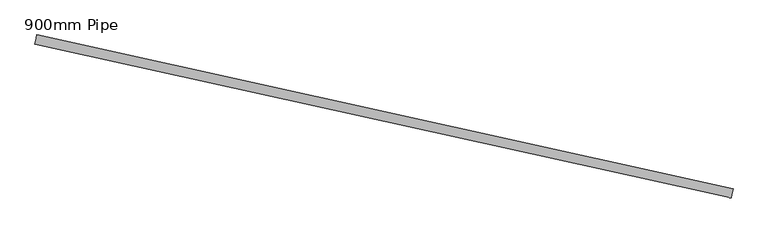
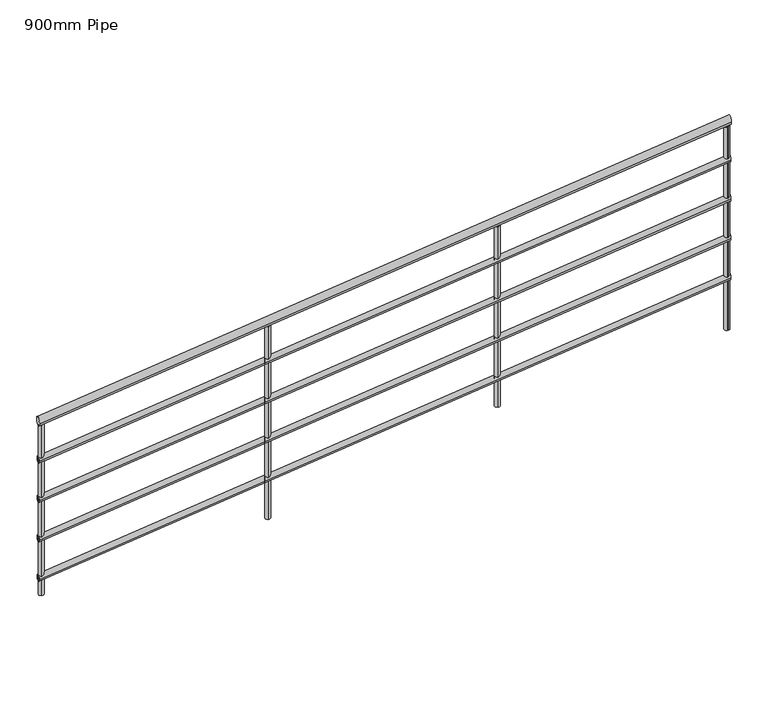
"""IFC4 building model written with IfcOpenShell, lengths in millimetres: railing geometry, 900mm Pipe."""

import ifcopenshell
import ifcopenshell.guid

model = None  # the IFC model being written
_history = None  # IfcOwnerHistory: only IFC2X3 demands one
_inside = {}  # id of a spatial element -> (the spatial element, [elements in it])
_under = {}  # id of a project, library or spatial element -> (it, [spatial elements below it])
_declared = {}  # id of a project -> (the project, [libraries it declares])
_typed = {}  # id of a type object -> (the type object, [elements of that type])
_made_of = {}  # id of a material, layer set ... -> (it, [elements and type objects made of it])


def new_model(schema):
    """Start an empty IFC model of exactly this schema.

    Asked for "IFC4X3", IfcOpenShell would pick the latest addendum, in which some entities
    have other attributes; the version numbers below select the first issue.
    IFC2X3 requires an IfcOwnerHistory on every rooted entity: one is made here for all.
    """
    global model, _history
    if schema == "IFC4X3":
        model = ifcopenshell.file(schema_version=(4, 3, 0, 0))
    else:
        model = ifcopenshell.file(schema=schema)
    _inside.clear()
    _under.clear()
    _declared.clear()
    _typed.clear()
    _made_of.clear()
    _history = None
    if model.schema == "IFC2X3":
        org = make("IfcOrganization", Name="unknown")
        user = make(
            "IfcPersonAndOrganization",
            ThePerson=make("IfcPerson", FamilyName="unknown"),
            TheOrganization=org,
        )
        app = make(
            "IfcApplication",
            ApplicationDeveloper=org,
            Version="unknown",
            ApplicationFullName="unknown",
            ApplicationIdentifier="unknown",
        )
        _history = make(
            "IfcOwnerHistory",
            OwningUser=user,
            OwningApplication=app,
            ChangeAction="ADDED",
            CreationDate=0,
        )
    return model


def make(cls, **values):
    """One entity of the class cls with the attributes given. An attribute that is None is left unset."""
    return model.create_entity(
        cls, **{name: value for name, value in values.items() if value is not None}
    )


def rooted(cls, **values):
    """An entity with a GlobalId (a new one), such as an element, a storey or a relation."""
    return make(cls, GlobalId=ifcopenshell.guid.new(), OwnerHistory=_history, **values)


def si_unit(unit_type, name, prefix=None):
    """IfcSIUnit, for example si_unit("LENGTHUNIT", "METRE", prefix="MILLI")."""
    return make("IfcSIUnit", UnitType=unit_type, Prefix=prefix, Name=name)


def assignment(units):
    """IfcUnitAssignment: the units of a project."""
    return None if units is None else make("IfcUnitAssignment", Units=units)


def point(xyz):
    """IfcCartesianPoint."""
    return None if xyz is None else make("IfcCartesianPoint", Coordinates=xyz)


def direction(xyz):
    """IfcDirection."""
    return None if xyz is None else make("IfcDirection", DirectionRatios=xyz)


def frame(location, z_axis=None, x_axis=None):
    """IfcAxis2Placement3D, a coordinate frame: its origin and axes. An axis left out is left unset."""
    return make(
        "IfcAxis2Placement3D",
        Location=point(location),
        Axis=direction(z_axis),
        RefDirection=direction(x_axis),
    )


def origin():
    """The frame at (0, 0, 0) with its axes left unset."""
    return frame((0.0, 0.0, 0.0))


def place(relative_to, where):
    """IfcLocalPlacement: puts the frame where relative to a parent placement (None: the world)."""
    return make(
        "IfcLocalPlacement", PlacementRelTo=relative_to, RelativePlacement=where
    )


def context(
    kind, dimensions, precision=None, world=None, true_north=None, identifier=None
):
    """IfcGeometricRepresentationContext, for example the 3D "Model" context."""
    return make(
        "IfcGeometricRepresentationContext",
        ContextIdentifier=identifier,
        ContextType=kind,
        CoordinateSpaceDimension=dimensions,
        Precision=precision,
        WorldCoordinateSystem=world,
        TrueNorth=true_north,
    )


def project(units=None, contexts=None):
    """IfcProject with its units and contexts."""
    return rooted(
        "IfcProject",
        Name="project",
        RepresentationContexts=contexts,
        UnitsInContext=assignment(units),
    )


def spatial(cls, under=None, at=None, **own):
    """A site, building, storey or space (cls), placed at a placement, below another one or the project."""
    s = rooted(cls, ObjectPlacement=at, **own)
    if under is not None:
        _under.setdefault(under.id(), (under, []))[1].append(s)
    return s


def circle_curve(where, radius):
    """IfcCircle in the frame where."""
    return make("IfcCircle", Position=where, Radius=radius)


def ellipse_curve(where, semi_axis1, semi_axis2):
    """IfcEllipse in the frame where."""
    return make(
        "IfcEllipse", Position=where, SemiAxis1=semi_axis1, SemiAxis2=semi_axis2
    )


def shape(context_of_items, identifier, shape_type, items):
    """IfcShapeRepresentation: the items that make up one representation, for example the "Body"."""
    return make(
        "IfcShapeRepresentation",
        ContextOfItems=context_of_items,
        RepresentationIdentifier=identifier,
        RepresentationType=shape_type,
        Items=items,
    )


def source(mapping_origin, context_of_items, identifier, shape_type, items):
    """IfcRepresentationMap: a shape defined once, which mapped items show again and again."""
    return make(
        "IfcRepresentationMap",
        MappingOrigin=mapping_origin,
        MappedRepresentation=shape(context_of_items, identifier, shape_type, items),
    )


def transform(
    local_origin,
    x_axis=None,
    y_axis=None,
    z_axis=None,
    scale=None,
    scale2=None,
    scale3=None,
    uniform=True,
):
    """IfcCartesianTransformationOperator3D, or its non-uniform kind. x_axis, y_axis, z_axis: its Axis1, 2, 3."""
    if uniform:
        return make(
            "IfcCartesianTransformationOperator3D",
            Axis1=direction(x_axis),
            Axis2=direction(y_axis),
            LocalOrigin=point(local_origin),
            Scale=scale,
            Axis3=direction(z_axis),
        )
    return make(
        "IfcCartesianTransformationOperator3DnonUniform",
        Axis1=direction(x_axis),
        Axis2=direction(y_axis),
        LocalOrigin=point(local_origin),
        Scale=scale,
        Axis3=direction(z_axis),
        Scale2=scale2,
        Scale3=scale3,
    )


def mapped(mapping_source, mapping_target):
    """IfcMappedItem: shows the shape of a source again, moved by a transform."""
    return make(
        "IfcMappedItem", MappingSource=mapping_source, MappingTarget=mapping_target
    )


def made_of(thing, what):
    """Note that an element or type object is made of a material, layer set ...; save() writes the relation."""
    if what is not None:
        _made_of.setdefault(what.id(), (what, []))[1].append(thing)
    return thing


def element(
    cls,
    number,
    at=None,
    inside=None,
    cuts=None,
    type_object=None,
    material=None,
    context=None,
    identifier="Body",
    shape_type=None,
    held_by="IfcProductDefinitionShape",
    body=None,
    shapes=None,
    **own,
):
    """One element of the class cls, such as IfcWall. Its Tag is "e" and its number.

    at: its placement. inside: the storey or other place that contains it. cuts: it is an
    opening in that element (IfcRelVoidsElement). A single representation is given by context,
    identifier, shape_type and body (its items); several are given by shapes. held_by: the class
    of the entity that holds the representations. save() writes the other relations.
    """
    e = rooted(cls, Tag="e%d" % number, ObjectPlacement=at, **own)
    if body is not None:
        shapes = [shape(context, identifier, shape_type, body)]
    if shapes is not None:
        e.Representation = make(held_by, Representations=shapes)
    if inside is not None:
        _inside.setdefault(inside.id(), (inside, []))[1].append(e)
    if cuts is not None:
        rooted(
            "IfcRelVoidsElement", RelatingBuildingElement=cuts, RelatedOpeningElement=e
        )
    if type_object is not None:
        _typed.setdefault(type_object.id(), (type_object, []))[1].append(e)
    return made_of(e, material)


def aggregate(whole, parts):
    """IfcRelAggregates: a whole, such as a stair, and the parts it consists of."""
    return rooted("IfcRelAggregates", RelatingObject=whole, RelatedObjects=parts)


def save(model, path):
    """Write the relations noted so far, then the file.

    IfcRelAggregates (storeys below a building ...), IfcRelContainedInSpatialStructure (elements
    in a storey), IfcRelDefinesByType, IfcRelAssociatesMaterial and IfcRelDeclares: one each for
    every whole, place, type object, material and project.
    """
    for whole, parts in _under.values():
        aggregate(whole, parts)
    for where, things in _inside.values():
        rooted(
            "IfcRelContainedInSpatialStructure",
            RelatedElements=things,
            RelatingStructure=where,
        )
    for kind, things in _typed.values():
        rooted("IfcRelDefinesByType", RelatedObjects=things, RelatingType=kind)
    for what, things in _made_of.values():
        rooted("IfcRelAssociatesMaterial", RelatedObjects=things, RelatingMaterial=what)
    for by, libraries in _declared.values():
        rooted("IfcRelDeclares", RelatingContext=by, RelatedDefinitions=libraries)
    model.write(path)


def plane_surface(at):
    """IfcPlane: the flat surface through the origin of the frame at, square to its z axis."""
    return make("IfcPlane", Position=at)


def cylinder_surface(at, radius):
    """IfcCylindricalSurface: all points at the distance radius from the z axis of the frame at."""
    return make("IfcCylindricalSurface", Position=at, Radius=radius)


def advanced_brep(points, edges, surfaces, faces):
    """IfcAdvancedBrep: a solid bounded by faces that lie on surfaces and meet in shared edges.

    An edge is (start, end): straight between two places in points (the first is 0);
    or (start, end, curve); or (start, end, curve, False) where it runs against its curve.
    A face is (place in surfaces, loops), or (place, loops, False) where it looks against
    its surface's normal. A loop lists edges by number (the first is 1), with a minus sign
    where the edge is run from its end to its start. The first loop is the outer one.
    """
    corners = [point(p) for p in points]
    vertices = [make("IfcVertexPoint", VertexGeometry=c) for c in corners]
    made = []
    for start, end, *more in edges:
        made.append(
            make(
                "IfcEdgeCurve",
                EdgeStart=vertices[start],
                EdgeEnd=vertices[end],
                EdgeGeometry=more[0] if more else make("IfcPolyline", Points=[corners[start], corners[end]]),
                SameSense=more[1] if len(more) > 1 else True,
            )
        )
    hull = []
    for where, loops, *sense in faces:
        bounds = []
        for j, loop in enumerate(loops):
            ring = [make("IfcOrientedEdge", EdgeElement=made[abs(k) - 1], Orientation=k > 0) for k in loop]
            bounds.append(
                make(
                    "IfcFaceOuterBound" if j == 0 else "IfcFaceBound",
                    Bound=make("IfcEdgeLoop", EdgeList=ring),
                    Orientation=True,
                )
            )
        hull.append(make("IfcAdvancedFace", Bounds=bounds, FaceSurface=surfaces[where], SameSense=sense[0] if sense else True))
    return make("IfcAdvancedBrep", Outer=make("IfcClosedShell", CfsFaces=hull))


def railing_900mm_pipe_fac46623(model_context):
    return source(origin(), model_context, "Body", "AdvancedBrep", [
        advanced_brep(
        [(864753.5441231, 76728.7706177, 3058.4278975), (864744.8863106, 76689.7188279, 3058.4278975), (867695.597983, 76076.5149668, 3954.8984857), (867686.9401706, 76037.4631771, 3954.8984857)],
        [
            (0, 1, ellipse_curve(frame((864749.2152169, 76709.2447228, 3058.4278975), z_axis=(-0.9762947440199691, 0.21644531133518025, 0.0), x_axis=(0.0, 0.0, -1.0)), 20.8662201, 20.0)),
            (1, 0, ellipse_curve(frame((864749.2152169, 76709.2447228, 3058.4278975), z_axis=(-0.9762947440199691, 0.21644531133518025, 0.0), x_axis=(0.0, 0.0, -1.0)), 20.8662201, 20.0)),
            (2, 3, ellipse_curve(frame((867691.2690768, 76056.989072, 3954.8984857), z_axis=(0.9762947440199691, -0.21644531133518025, 0.0), x_axis=(0.0, 0.0, -1.0)), 20.8662201, 20.0)),
            (3, 2, ellipse_curve(frame((867691.2690768, 76056.989072, 3954.8984857), z_axis=(0.9762947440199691, -0.21644531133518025, 0.0), x_axis=(0.0, 0.0, -1.0)), 20.8662201, 20.0)),
            (0, 2),
            (3, 1),
        ],
        [
            plane_surface(frame((864749.2152169, 76709.2447228, 3079.2941176), z_axis=(-0.9762947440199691, 0.21644531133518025, 0.0), x_axis=(0.21644531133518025, 0.9762947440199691, 0.0))),
            plane_surface(frame((867691.2690768, 76056.989072, 3975.7647059), z_axis=(0.9762947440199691, -0.21644531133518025, 0.0), x_axis=(0.21644531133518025, 0.9762947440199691, 0.0))),
            cylinder_surface(frame((864754.7827593, 76708.0103943, 3060.1243784), z_axis=(-0.9357657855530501, 0.20746000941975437, -0.2851363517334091), x_axis=(-0.21644531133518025, -0.9762947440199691, 0.0)), 20.0),
        ],
        [
            (0, [[1, 2]]),
            (1, [[3, 4]]),
            (2, [[-1, 5, -4, 6]]),
            (2, [[-2, -6, -3, -5]]),
        ],
    ),
        advanced_brep(
        [(864752.4618965, 76723.889144, 2863.6444525), (864745.9685372, 76694.6003016, 2863.6444525), (867694.5157565, 76071.6334931, 3760.1150408), (867688.0223971, 76042.3446508, 3760.1150408)],
        [
            (0, 1, ellipse_curve(frame((864749.2152169, 76709.2447228, 2863.6444525), z_axis=(-0.9762947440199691, 0.21644531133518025, 0.0), x_axis=(0.0, 0.0, -1.0)), 15.6496651, 15.0)),
            (1, 0, ellipse_curve(frame((864749.2152169, 76709.2447228, 2863.6444525), z_axis=(-0.9762947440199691, 0.21644531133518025, 0.0), x_axis=(0.0, 0.0, -1.0)), 15.6496651, 15.0)),
            (2, 3, ellipse_curve(frame((867691.2690768, 76056.989072, 3760.1150408), z_axis=(0.9762947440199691, -0.21644531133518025, 0.0), x_axis=(0.0, 0.0, -1.0)), 15.6496651, 15.0)),
            (3, 2, ellipse_curve(frame((867691.2690768, 76056.989072, 3760.1150408), z_axis=(0.9762947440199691, -0.21644531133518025, 0.0), x_axis=(0.0, 0.0, -1.0)), 15.6496651, 15.0)),
            (0, 2),
            (3, 1),
        ],
        [
            plane_surface(frame((864749.2152169, 76709.2447228, 2879.2941176), z_axis=(-0.9762947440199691, 0.21644531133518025, 0.0), x_axis=(0.21644531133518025, 0.9762947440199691, 0.0))),
            plane_surface(frame((867691.2690768, 76056.989072, 3775.7647059), z_axis=(0.9762947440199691, -0.21644531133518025, 0.0), x_axis=(0.21644531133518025, 0.9762947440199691, 0.0))),
            cylinder_surface(frame((864753.3908737, 76708.3189764, 2864.9168132), z_axis=(-0.9357657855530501, 0.20746000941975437, -0.2851363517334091), x_axis=(-0.21644531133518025, -0.9762947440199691, 0.0)), 15.0),
        ],
        [
            (0, [[1, 2]]),
            (1, [[3, 4]]),
            (2, [[-1, 5, -4, 6]]),
            (2, [[-2, -6, -3, -5]]),
        ],
    ),
        advanced_brep(
        [(864752.4618965, 76723.889144, 2663.6444525), (864745.9685372, 76694.6003016, 2663.6444525), (867694.5157565, 76071.6334931, 3560.1150408), (867688.0223971, 76042.3446508, 3560.1150408)],
        [
            (0, 1, ellipse_curve(frame((864749.2152169, 76709.2447228, 2663.6444525), z_axis=(-0.9762947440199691, 0.21644531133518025, 0.0), x_axis=(0.0, 0.0, -1.0)), 15.6496651, 15.0)),
            (1, 0, ellipse_curve(frame((864749.2152169, 76709.2447228, 2663.6444525), z_axis=(-0.9762947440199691, 0.21644531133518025, 0.0), x_axis=(0.0, 0.0, -1.0)), 15.6496651, 15.0)),
            (2, 3, ellipse_curve(frame((867691.2690768, 76056.989072, 3560.1150408), z_axis=(0.9762947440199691, -0.21644531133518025, 0.0), x_axis=(0.0, 0.0, -1.0)), 15.6496651, 15.0)),
            (3, 2, ellipse_curve(frame((867691.2690768, 76056.989072, 3560.1150408), z_axis=(0.9762947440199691, -0.21644531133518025, 0.0), x_axis=(0.0, 0.0, -1.0)), 15.6496651, 15.0)),
            (0, 2),
            (3, 1),
        ],
        [
            plane_surface(frame((864749.2152169, 76709.2447228, 2679.2941176), z_axis=(-0.9762947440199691, 0.21644531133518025, 0.0), x_axis=(0.21644531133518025, 0.9762947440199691, 0.0))),
            plane_surface(frame((867691.2690768, 76056.989072, 3575.7647059), z_axis=(0.9762947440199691, -0.21644531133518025, 0.0), x_axis=(0.21644531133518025, 0.9762947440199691, 0.0))),
            cylinder_surface(frame((864753.3908737, 76708.3189764, 2664.9168132), z_axis=(-0.9357657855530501, 0.20746000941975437, -0.2851363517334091), x_axis=(-0.21644531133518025, -0.9762947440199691, 0.0)), 15.0),
        ],
        [
            (0, [[1, 2]]),
            (1, [[3, 4]]),
            (2, [[-1, 5, -4, 6]]),
            (2, [[-2, -6, -3, -5]]),
        ],
    ),
        advanced_brep(
        [(864752.4618965, 76723.889144, 2463.6444525), (864745.9685372, 76694.6003016, 2463.6444525), (867694.5157565, 76071.6334931, 3360.1150408), (867688.0223971, 76042.3446508, 3360.1150408)],
        [
            (0, 1, ellipse_curve(frame((864749.2152169, 76709.2447228, 2463.6444525), z_axis=(-0.9762947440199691, 0.21644531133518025, 0.0), x_axis=(0.0, 0.0, -1.0)), 15.6496651, 15.0)),
            (1, 0, ellipse_curve(frame((864749.2152169, 76709.2447228, 2463.6444525), z_axis=(-0.9762947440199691, 0.21644531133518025, 0.0), x_axis=(0.0, 0.0, -1.0)), 15.6496651, 15.0)),
            (2, 3, ellipse_curve(frame((867691.2690768, 76056.989072, 3360.1150408), z_axis=(0.9762947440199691, -0.21644531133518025, 0.0), x_axis=(0.0, 0.0, -1.0)), 15.6496651, 15.0)),
            (3, 2, ellipse_curve(frame((867691.2690768, 76056.989072, 3360.1150408), z_axis=(0.9762947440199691, -0.21644531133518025, 0.0), x_axis=(0.0, 0.0, -1.0)), 15.6496651, 15.0)),
            (0, 2),
            (3, 1),
        ],
        [
            plane_surface(frame((864749.2152169, 76709.2447228, 2479.2941176), z_axis=(-0.9762947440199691, 0.21644531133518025, 0.0), x_axis=(0.21644531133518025, 0.9762947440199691, 0.0))),
            plane_surface(frame((867691.2690768, 76056.989072, 3375.7647059), z_axis=(0.9762947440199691, -0.21644531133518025, 0.0), x_axis=(0.21644531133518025, 0.9762947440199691, 0.0))),
            cylinder_surface(frame((864753.3908737, 76708.3189764, 2464.9168132), z_axis=(-0.9357657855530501, 0.20746000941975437, -0.2851363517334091), x_axis=(-0.21644531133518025, -0.9762947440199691, 0.0)), 15.0),
        ],
        [
            (0, [[1, 2]]),
            (1, [[3, 4]]),
            (2, [[-1, 5, -4, 6]]),
            (2, [[-2, -6, -3, -5]]),
        ],
    ),
        advanced_brep(
        [(864752.4618965, 76723.889144, 2263.6444525), (864745.9685372, 76694.6003016, 2263.6444525), (867694.5157565, 76071.6334931, 3160.1150408), (867688.0223971, 76042.3446508, 3160.1150408)],
        [
            (0, 1, ellipse_curve(frame((864749.2152169, 76709.2447228, 2263.6444525), z_axis=(-0.9762947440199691, 0.21644531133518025, 0.0), x_axis=(0.0, 0.0, -1.0)), 15.6496651, 15.0)),
            (1, 0, ellipse_curve(frame((864749.2152169, 76709.2447228, 2263.6444525), z_axis=(-0.9762947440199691, 0.21644531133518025, 0.0), x_axis=(0.0, 0.0, -1.0)), 15.6496651, 15.0)),
            (2, 3, ellipse_curve(frame((867691.2690768, 76056.989072, 3160.1150408), z_axis=(0.9762947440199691, -0.21644531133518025, 0.0), x_axis=(0.0, 0.0, -1.0)), 15.6496651, 15.0)),
            (3, 2, ellipse_curve(frame((867691.2690768, 76056.989072, 3160.1150408), z_axis=(0.9762947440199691, -0.21644531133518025, 0.0), x_axis=(0.0, 0.0, -1.0)), 15.6496651, 15.0)),
            (0, 2),
            (3, 1),
        ],
        [
            plane_surface(frame((864749.2152169, 76709.2447228, 2279.2941176), z_axis=(-0.9762947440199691, 0.21644531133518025, 0.0), x_axis=(0.21644531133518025, 0.9762947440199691, 0.0))),
            plane_surface(frame((867691.2690768, 76056.989072, 3175.7647059), z_axis=(0.9762947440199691, -0.21644531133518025, 0.0), x_axis=(0.21644531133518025, 0.9762947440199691, 0.0))),
            cylinder_surface(frame((864753.3908737, 76708.3189764, 2264.9168132), z_axis=(-0.9357657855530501, 0.20746000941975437, -0.28513635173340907), x_axis=(-0.21644531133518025, -0.9762947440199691, 0.0)), 15.0),
        ],
        [
            (0, [[1, 2]]),
            (1, [[3, 4]]),
            (2, [[-1, 5, -4, 6]]),
            (2, [[-2, -6, -3, -5]]),
        ],
    ),
        advanced_brep(
        [(867675.3938825, 76047.7051045, 3930.0193601), (867675.3938825, 76047.7051045, 2896.4705882), (867680.8050153, 76072.1124731, 2896.4705882), (867680.8050153, 76072.1124731, 3930.0193601)],
        [
            (0, 1),
            (1, 2, circle_curve(frame((867678.0994489, 76059.9087888, 2896.4705882), z_axis=(0.0, 0.0, 1.0), x_axis=(0.21644531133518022, 0.9762947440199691, 0.0)), 12.5)),
            (2, 3),
            (3, 0, ellipse_curve(frame((867678.0994489, 76059.9087888, 3930.0193601), z_axis=(0.27837712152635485, -0.06171642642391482, -0.958486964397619), x_axis=(0.9357657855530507, -0.20746000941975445, 0.285136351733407)), 13.0413876, 12.5)),
            (0, 3, ellipse_curve(frame((867678.0994489, 76059.9087888, 3930.0193601), z_axis=(0.27837712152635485, -0.06171642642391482, -0.958486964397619), x_axis=(0.9357657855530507, -0.20746000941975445, 0.285136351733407)), 13.0413876, 12.5)),
            (2, 1, circle_curve(frame((867678.0994489, 76059.9087888, 2896.4705882), z_axis=(0.0, 0.0, 1.0), x_axis=(0.21644531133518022, 0.9762947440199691, 0.0)), 12.5)),
        ],
        [
            cylinder_surface(frame((867678.0994489, 76059.9087888, 2796.4705882), z_axis=(0.0, 0.0, 1.0), x_axis=(0.21644531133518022, 0.9762947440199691, 0.0)), 12.5),
            plane_surface(frame((867707.9179503, 76078.9050246, 3937.4565075), z_axis=(-0.27837712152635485, 0.06171642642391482, 0.958486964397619), x_axis=(-0.21644531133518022, -0.9762947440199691, 0.0))),
            plane_surface(frame((867659.1032131, 76089.7272902, 2896.4705882), z_axis=(0.0, 0.0, -1.0), x_axis=(-0.21644531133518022, -0.9762947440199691, 0.0))),
        ],
        [
            (0, [[1, 2, 3, 4]]),
            (0, [[-1, 5, -3, 6]]),
            (1, [[-4, -5]]),
            (2, [[-2, -6]]),
        ],
    ),
        advanced_brep(
        [(866699.0991385, 76264.1504158, 3632.5334659), (866699.0991385, 76264.1504158, 2717.1764706), (866704.5102713, 76288.5577844, 2717.1764706), (866704.5102713, 76288.5577844, 3632.5334659)],
        [
            (0, 1),
            (1, 2, circle_curve(frame((866701.8047049, 76276.3541001, 2717.1764706), z_axis=(0.0, 0.0, 1.0), x_axis=(0.21644531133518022, 0.9762947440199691, 0.0)), 12.5)),
            (2, 3),
            (3, 0, ellipse_curve(frame((866701.8047049, 76276.3541001, 3632.5334659), z_axis=(0.27837712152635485, -0.06171642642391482, -0.958486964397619), x_axis=(0.9357657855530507, -0.20746000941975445, 0.285136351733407)), 13.0413876, 12.5)),
            (0, 3, ellipse_curve(frame((866701.8047049, 76276.3541001, 3632.5334659), z_axis=(0.27837712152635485, -0.06171642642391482, -0.958486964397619), x_axis=(0.9357657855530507, -0.20746000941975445, 0.285136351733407)), 13.0413876, 12.5)),
            (2, 1, circle_curve(frame((866701.8047049, 76276.3541001, 2717.1764706), z_axis=(0.0, 0.0, 1.0), x_axis=(0.21644531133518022, 0.9762947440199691, 0.0)), 12.5)),
        ],
        [
            cylinder_surface(frame((866701.8047049, 76276.3541001, 2617.1764706), z_axis=(0.0, 0.0, 1.0), x_axis=(0.21644531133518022, 0.9762947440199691, 0.0)), 12.5),
            plane_surface(frame((866731.6232063, 76295.350336, 3639.9706132), z_axis=(-0.27837712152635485, 0.06171642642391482, 0.958486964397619), x_axis=(-0.21644531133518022, -0.9762947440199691, 0.0))),
            plane_surface(frame((866682.8084691, 76306.1726015, 2717.1764706), z_axis=(0.0, 0.0, -1.0), x_axis=(-0.21644531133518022, -0.9762947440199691, 0.0))),
        ],
        [
            (0, [[1, 2, 3, 4]]),
            (0, [[-1, 5, -3, 6]]),
            (1, [[-4, -5]]),
            (2, [[-2, -6]]),
        ],
    ),
        advanced_brep(
        [(865722.8043945, 76480.5957272, 3335.0475716), (865722.8043945, 76480.5957272, 2358.5882353), (865728.2155273, 76505.0030958, 2358.5882353), (865728.2155273, 76505.0030958, 3335.0475716)],
        [
            (0, 1),
            (1, 2, circle_curve(frame((865725.5099609, 76492.7994115, 2358.5882353), z_axis=(0.0, 0.0, 1.0), x_axis=(0.21644531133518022, 0.9762947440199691, 0.0)), 12.5)),
            (2, 3),
            (3, 0, ellipse_curve(frame((865725.5099609, 76492.7994115, 3335.0475716), z_axis=(0.27837712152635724, -0.061716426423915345, -0.9584869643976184), x_axis=(0.93576578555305, -0.20746000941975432, 0.28513635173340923)), 13.0413876, 12.5)),
            (0, 3, ellipse_curve(frame((865725.5099609, 76492.7994115, 3335.0475716), z_axis=(0.27837712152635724, -0.061716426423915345, -0.9584869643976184), x_axis=(0.93576578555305, -0.20746000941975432, 0.28513635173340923)), 13.0413876, 12.5)),
            (2, 1, circle_curve(frame((865725.5099609, 76492.7994115, 2358.5882353), z_axis=(0.0, 0.0, 1.0), x_axis=(0.21644531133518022, 0.9762947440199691, 0.0)), 12.5)),
        ],
        [
            cylinder_surface(frame((865725.5099609, 76492.7994115, 2258.5882353), z_axis=(0.0, 0.0, 1.0), x_axis=(0.21644531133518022, 0.9762947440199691, 0.0)), 12.5),
            plane_surface(frame((865755.3284623, 76511.7956473, 3342.484719), z_axis=(-0.27837712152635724, 0.061716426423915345, 0.9584869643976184), x_axis=(-0.21644531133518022, -0.9762947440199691, 0.0))),
            plane_surface(frame((865706.5137251, 76522.6179129, 2358.5882353), z_axis=(0.0, 0.0, -1.0), x_axis=(-0.21644531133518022, -0.9762947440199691, 0.0))),
        ],
        [
            (0, [[1, 2, 3, 4]]),
            (0, [[-1, 5, -3, 6]]),
            (1, [[-4, -5]]),
            (2, [[-2, -6]]),
        ],
    ),
        advanced_brep(
        [(867676.3598261, 76047.4909541, 3930.3136919), (867676.3598261, 76047.4909541, 2896.4705882), (867681.7709589, 76071.8983227, 2896.4705882), (867681.7709589, 76071.8983227, 3930.3136919)],
        [
            (0, 1),
            (1, 2, circle_curve(frame((867679.0653925, 76059.6946384, 2896.4705882), z_axis=(0.0, 0.0, 1.0), x_axis=(0.21644531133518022, 0.9762947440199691, 0.0)), 12.5)),
            (2, 3),
            (3, 0, ellipse_curve(frame((867679.0653925, 76059.6946384, 3930.3136919), z_axis=(0.27837712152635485, -0.06171642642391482, -0.958486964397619), x_axis=(0.9357657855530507, -0.20746000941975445, 0.285136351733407)), 13.0413876, 12.5)),
            (0, 3, ellipse_curve(frame((867679.0653925, 76059.6946384, 3930.3136919), z_axis=(0.27837712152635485, -0.06171642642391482, -0.958486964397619), x_axis=(0.9357657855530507, -0.20746000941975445, 0.285136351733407)), 13.0413876, 12.5)),
            (2, 1, circle_curve(frame((867679.0653925, 76059.6946384, 2896.4705882), z_axis=(0.0, 0.0, 1.0), x_axis=(0.21644531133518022, 0.9762947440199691, 0.0)), 12.5)),
        ],
        [
            cylinder_surface(frame((867679.0653925, 76059.6946384, 2796.4705882), z_axis=(0.0, 0.0, 1.0), x_axis=(0.21644531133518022, 0.9762947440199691, 0.0)), 12.5),
            plane_surface(frame((867708.8838939, 76078.6908742, 3937.7508393), z_axis=(-0.27837712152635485, 0.06171642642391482, 0.958486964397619), x_axis=(-0.21644531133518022, -0.9762947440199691, 0.0))),
            plane_surface(frame((867660.0691567, 76089.5131397, 2896.4705882), z_axis=(0.0, 0.0, -1.0), x_axis=(-0.21644531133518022, -0.9762947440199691, 0.0))),
        ],
        [
            (0, [[1, 2, 3, 4]]),
            (0, [[-1, 5, -3, 6]]),
            (1, [[-4, -5]]),
            (2, [[-2, -6]]),
        ],
    ),
        advanced_brep(
        [(864758.7133348, 76694.3354721, 3041.280251), (864758.7133348, 76694.3354721, 2179.2941176), (864764.1244675, 76718.7428407, 2179.2941176), (864764.1244675, 76718.7428407, 3041.280251)],
        [
            (0, 1),
            (1, 2, circle_curve(frame((864761.4189012, 76706.5391564, 2179.2941176), z_axis=(0.0, 0.0, 1.0), x_axis=(0.21644531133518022, 0.9762947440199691, 0.0)), 12.5)),
            (2, 3),
            (3, 0, ellipse_curve(frame((864761.4189012, 76706.5391564, 3041.280251), z_axis=(0.27837712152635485, -0.06171642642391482, -0.958486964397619), x_axis=(0.9357657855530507, -0.20746000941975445, 0.285136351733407)), 13.0413876, 12.5)),
            (0, 3, ellipse_curve(frame((864761.4189012, 76706.5391564, 3041.280251), z_axis=(0.27837712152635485, -0.06171642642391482, -0.958486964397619), x_axis=(0.9357657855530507, -0.20746000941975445, 0.285136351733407)), 13.0413876, 12.5)),
            (2, 1, circle_curve(frame((864761.4189012, 76706.5391564, 2179.2941176), z_axis=(0.0, 0.0, 1.0), x_axis=(0.21644531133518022, 0.9762947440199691, 0.0)), 12.5)),
        ],
        [
            cylinder_surface(frame((864761.4189012, 76706.5391564, 2079.2941176), z_axis=(0.0, 0.0, 1.0), x_axis=(0.21644531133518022, 0.9762947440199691, 0.0)), 12.5),
            plane_surface(frame((864791.2374025, 76725.5353922, 3048.7173984), z_axis=(-0.27837712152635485, 0.06171642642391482, 0.958486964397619), x_axis=(-0.21644531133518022, -0.9762947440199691, 0.0))),
            plane_surface(frame((864742.4226653, 76736.3576578, 2179.2941176), z_axis=(0.0, 0.0, -1.0), x_axis=(-0.21644531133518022, -0.9762947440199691, 0.0))),
        ],
        [
            (0, [[1, 2, 3, 4]]),
            (0, [[-1, 5, -3, 6]]),
            (1, [[-4, -5]]),
            (2, [[-2, -6]]),
        ],
    ),
    ])


if __name__ == "__main__":
    model = new_model("IFC4")
    model_context = context("Model", 3, world=origin())
    ifc_project = project(units=[si_unit("LENGTHUNIT", "METRE", prefix="MILLI")], contexts=[model_context])
    site = spatial("IfcSite", under=ifc_project)
    building = spatial("IfcBuilding", under=site)
    placement = place(None, origin())
    railing_900mm_pipe_shape = railing_900mm_pipe_fac46623(model_context)
    element("IfcRailing", 1, ObjectType="900mm Pipe", at=placement, inside=building, context=model_context, shape_type="MappedRepresentation", body=[
        mapped(railing_900mm_pipe_shape, transform((0.0, 0.0, 0.0), x_axis=(1.0, 0.0, 0.0), y_axis=(0.0, 1.0, 0.0), z_axis=(0.0, 0.0, 1.0))),
    ])
    save(model, "model.ifc")
